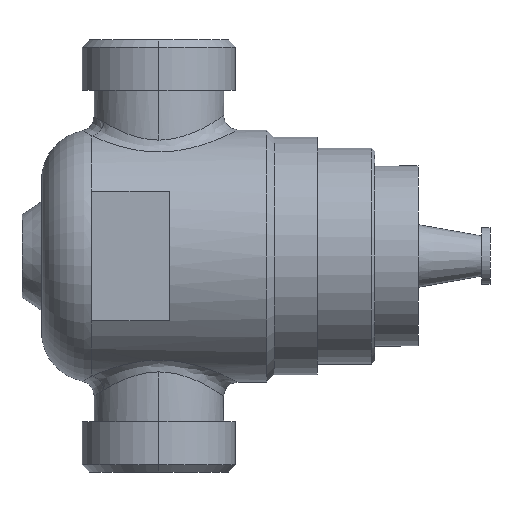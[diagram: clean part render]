
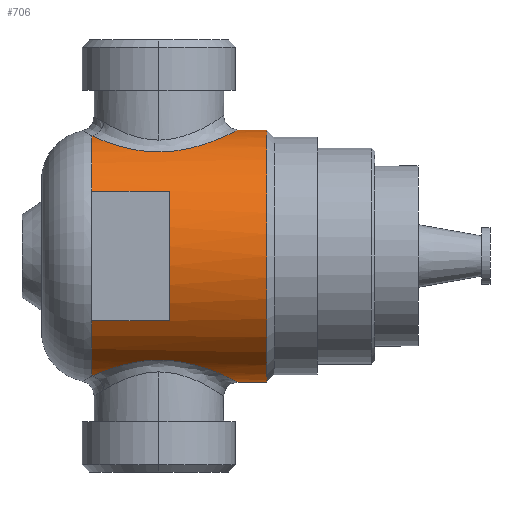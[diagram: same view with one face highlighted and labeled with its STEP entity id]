
A CAD part, left-side view. The second image highlights one B-rep face of the part: STEP entity #706.
In plain terms, the highlighted cylindrical face has radius 17.5 mm (diameter 35 mm), a partial arc.
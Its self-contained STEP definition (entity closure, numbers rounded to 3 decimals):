
#571=CARTESIAN_POINT('',(0.0,-0.199,30.0));
#572=DIRECTION('',(0.,1.0,0.));
#573=DIRECTION('',(0.0,0.0,-1.0));
#574=AXIS2_PLACEMENT_3D('',#571,#572,#573);
#575=CYLINDRICAL_SURFACE('',#574,17.5);
#576=CARTESIAN_POINT('',(0.0,-15.0,12.5));
#577=VERTEX_POINT('',#576);
#578=CARTESIAN_POINT('',(0.,-11.,12.5));
#579=VERTEX_POINT('',#578);
#580=CARTESIAN_POINT('',(0.0,-15.0,12.5));
#581=DIRECTION('',(0.0,1.0,0.0));
#582=VECTOR('',#581,4.);
#583=LINE('',#580,#582);
#584=EDGE_CURVE('',#577,#579,#583,.T.);
#585=ORIENTED_EDGE('',*,*,#584,.F.);
#586=CARTESIAN_POINT('',(0.,-15.,47.5));
#587=VERTEX_POINT('',#586);
#588=CARTESIAN_POINT('',(0.0,-15.0,30.0));
#589=DIRECTION('',(0.0,-1.0,0.0));
#590=DIRECTION('',(0.0,0.0,-1.0));
#591=AXIS2_PLACEMENT_3D('',#588,#589,#590);
#592=CIRCLE('',#591,17.5);
#593=EDGE_CURVE('',#587,#577,#592,.T.);
#594=ORIENTED_EDGE('',*,*,#593,.F.);
#595=CARTESIAN_POINT('',(0.,-11.,47.5));
#596=VERTEX_POINT('',#595);
#597=CARTESIAN_POINT('',(0.,-11.,47.5));
#598=DIRECTION('',(0.0,-1.0,0.0));
#599=VECTOR('',#598,4.0);
#600=LINE('',#597,#599);
#601=EDGE_CURVE('',#596,#587,#600,.T.);
#602=ORIENTED_EDGE('',*,*,#601,.F.);
#603=CARTESIAN_POINT('',(-9.872,0.0,44.45));
#604=VERTEX_POINT('',#603);
#605=CARTESIAN_POINT('',(0.,-11.,47.5));
#606=CARTESIAN_POINT('',(-0.519,-11.,47.5));
#607=CARTESIAN_POINT('',(-1.039,-10.954,47.477));
#608=CARTESIAN_POINT('',(-1.551,-10.863,47.431));
#609=CARTESIAN_POINT('',(-3.876,-10.451,47.224));
#610=CARTESIAN_POINT('',(-5.979,-9.11,46.529));
#611=CARTESIAN_POINT('',(-7.463,-7.201,45.829));
#612=CARTESIAN_POINT('',(-8.969,-5.263,45.119));
#613=CARTESIAN_POINT('',(-9.872,-2.664,44.45));
#614=CARTESIAN_POINT('',(-9.872,0.0,44.45));
#615=B_SPLINE_CURVE_WITH_KNOTS('',3,(#605,#606,#607,#608,#609,#610,#611,#612,#613,#614),.UNSPECIFIED.,.F.,.U.,(4,3,3,4),(41.571,42.935,49.135,55.427),.UNSPECIFIED.);
#616=EDGE_CURVE('',#604,#596,#615,.F.);
#617=ORIENTED_EDGE('',*,*,#616,.F.);
#618=CARTESIAN_POINT('',(-5.27,9.301,46.688));
#619=VERTEX_POINT('',#618);
#620=CARTESIAN_POINT('',(-9.872,0.0,44.45));
#621=CARTESIAN_POINT('',(-9.872,0.844,44.45));
#622=CARTESIAN_POINT('',(-9.783,1.693,44.512));
#623=CARTESIAN_POINT('',(-9.612,2.507,44.624));
#624=CARTESIAN_POINT('',(-9.338,3.81,44.804));
#625=CARTESIAN_POINT('',(-8.856,5.031,45.112));
#626=CARTESIAN_POINT('',(-8.205,6.116,45.457));
#627=CARTESIAN_POINT('',(-7.439,7.393,45.864));
#628=CARTESIAN_POINT('',(-6.447,8.473,46.316));
#629=CARTESIAN_POINT('',(-5.27,9.301,46.688));
#630=B_SPLINE_CURVE_WITH_KNOTS('',3,(#620,#621,#622,#623,#624,#625,#626,#627,#628,#629),.UNSPECIFIED.,.F.,.U.,(4,3,3,4),(0.0,1.994,5.185,8.94),.UNSPECIFIED.);
#631=EDGE_CURVE('',#619,#604,#630,.F.);
#632=ORIENTED_EDGE('',*,*,#631,.F.);
#633=CARTESIAN_POINT('',(-15.003,9.301,39.008));
#634=VERTEX_POINT('',#633);
#635=CARTESIAN_POINT('',(0.0,9.301,30.0));
#636=DIRECTION('',(0.0,1.0,0.0));
#637=DIRECTION('',(0.0,0.0,1.0));
#638=AXIS2_PLACEMENT_3D('',#635,#636,#637);
#639=CIRCLE('',#638,17.5);
#640=EDGE_CURVE('',#634,#619,#639,.T.);
#641=ORIENTED_EDGE('',*,*,#640,.F.);
#642=CARTESIAN_POINT('',(-15.003,-1.442,39.008));
#643=VERTEX_POINT('',#642);
#644=CARTESIAN_POINT('',(-15.003,-1.442,39.008));
#645=DIRECTION('',(0.0,1.0,0.0));
#646=VECTOR('',#645,10.743);
#647=LINE('',#644,#646);
#648=EDGE_CURVE('',#643,#634,#647,.T.);
#649=ORIENTED_EDGE('',*,*,#648,.F.);
#650=CARTESIAN_POINT('',(-15.003,-1.442,20.992));
#651=VERTEX_POINT('',#650);
#652=CARTESIAN_POINT('',(0.0,-1.442,30.0));
#653=DIRECTION('',(0.0,1.0,0.0));
#654=DIRECTION('',(0.0,0.0,-1.0));
#655=AXIS2_PLACEMENT_3D('',#652,#653,#654);
#656=CIRCLE('',#655,17.5);
#657=EDGE_CURVE('',#651,#643,#656,.T.);
#658=ORIENTED_EDGE('',*,*,#657,.F.);
#659=CARTESIAN_POINT('',(-15.003,9.301,20.992));
#660=VERTEX_POINT('',#659);
#661=CARTESIAN_POINT('',(-15.003,9.301,20.992));
#662=DIRECTION('',(0.0,-1.0,0.0));
#663=VECTOR('',#662,10.743);
#664=LINE('',#661,#663);
#665=EDGE_CURVE('',#660,#651,#664,.T.);
#666=ORIENTED_EDGE('',*,*,#665,.F.);
#667=CARTESIAN_POINT('',(-5.27,9.301,13.312));
#668=VERTEX_POINT('',#667);
#669=CARTESIAN_POINT('',(0.0,9.301,30.0));
#670=DIRECTION('',(0.0,1.0,0.0));
#671=DIRECTION('',(0.0,0.0,1.0));
#672=AXIS2_PLACEMENT_3D('',#669,#670,#671);
#673=CIRCLE('',#672,17.5);
#674=EDGE_CURVE('',#668,#660,#673,.T.);
#675=ORIENTED_EDGE('',*,*,#674,.F.);
#676=CARTESIAN_POINT('',(-9.872,0.0,15.55));
#677=VERTEX_POINT('',#676);
#678=CARTESIAN_POINT('',(-5.27,9.301,13.312));
#679=CARTESIAN_POINT('',(-6.096,8.72,13.573));
#680=CARTESIAN_POINT('',(-6.83,8.015,13.873));
#681=CARTESIAN_POINT('',(-7.463,7.201,14.171));
#682=CARTESIAN_POINT('',(-8.969,5.263,14.881));
#683=CARTESIAN_POINT('',(-9.872,2.664,15.55));
#684=CARTESIAN_POINT('',(-9.872,0.0,15.55));
#685=B_SPLINE_CURVE_WITH_KNOTS('',3,(#678,#679,#680,#681,#682,#683,#684),.UNSPECIFIED.,.F.,.U.,(4,3,4),(46.493,49.135,55.427),.UNSPECIFIED.);
#686=EDGE_CURVE('',#677,#668,#685,.F.);
#687=ORIENTED_EDGE('',*,*,#686,.F.);
#688=CARTESIAN_POINT('',(-9.872,0.0,15.55));
#689=CARTESIAN_POINT('',(-9.872,-0.844,15.55));
#690=CARTESIAN_POINT('',(-9.783,-1.693,15.488));
#691=CARTESIAN_POINT('',(-9.612,-2.507,15.376));
#692=CARTESIAN_POINT('',(-9.338,-3.81,15.196));
#693=CARTESIAN_POINT('',(-8.856,-5.031,14.888));
#694=CARTESIAN_POINT('',(-8.205,-6.116,14.543));
#695=CARTESIAN_POINT('',(-7.279,-7.659,14.051));
#696=CARTESIAN_POINT('',(-6.014,-8.924,13.492));
#697=CARTESIAN_POINT('',(-4.512,-9.784,13.092));
#698=CARTESIAN_POINT('',(-3.144,-10.567,12.726));
#699=CARTESIAN_POINT('',(-1.573,-11.,12.5));
#700=CARTESIAN_POINT('',(0.,-11.,12.5));
#701=B_SPLINE_CURVE_WITH_KNOTS('',3,(#688,#689,#690,#691,#692,#693,#694,#695,#696,#697,#698,#699,#700),.UNSPECIFIED.,.F.,.U.,(4,3,3,3,4),(0.0,1.994,5.185,9.724,13.862),.UNSPECIFIED.);
#702=EDGE_CURVE('',#579,#677,#701,.F.);
#703=ORIENTED_EDGE('',*,*,#702,.F.);
#704=EDGE_LOOP('',(#585,#594,#602,#617,#632,#641,#649,#658,#666,#675,#687,#703));
#705=FACE_OUTER_BOUND('',#704,.T.);
#706=ADVANCED_FACE('',(#705),#575,.T.);
